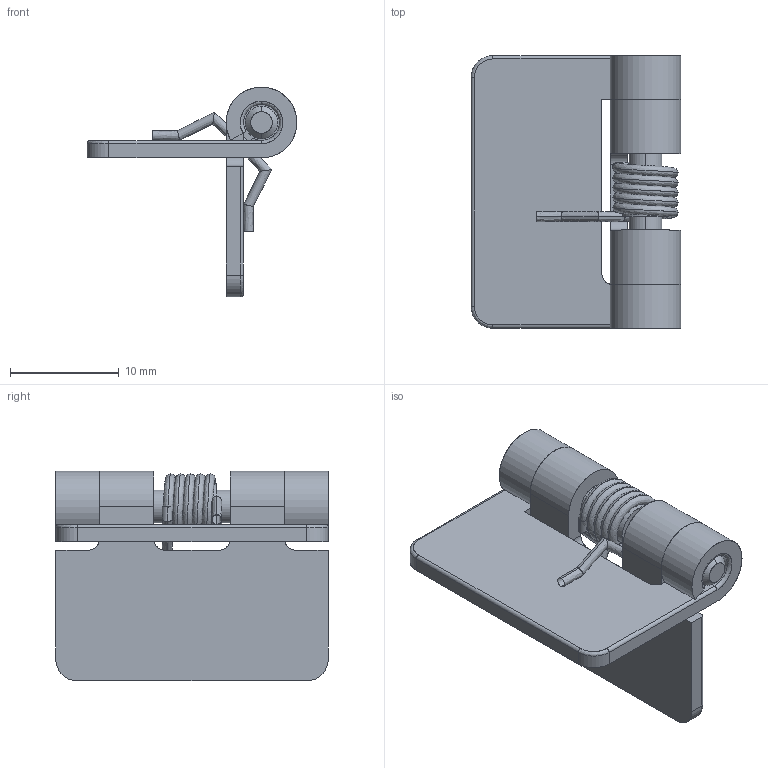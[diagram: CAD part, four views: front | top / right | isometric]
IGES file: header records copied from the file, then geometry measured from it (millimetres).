
Start section: SolidWorks IGES FILE using analytic representation for surfaces
Global section: file name: E:\妙子\仕事\solidworks\ヒンジ20130815\DEH-40\DEH-40-2\DEH-40-2.IGS; native system: SolidWorks 2003 by SolidWorks Corporation; preprocessor: Version 5.3; author: 妙子,,; organization: 11; date: 130815.133423; units: millimetre
Bounding box: 19.25 x 25 x 19.25 mm (x, y, z)
Surface area: 2805.5 mm2 (no closed solid volume)
Topology: 0 solids, 0 shells, 87 faces, 1222 edges, 1222 vertices
Faces by surface type: revolution 47, bspline 40
